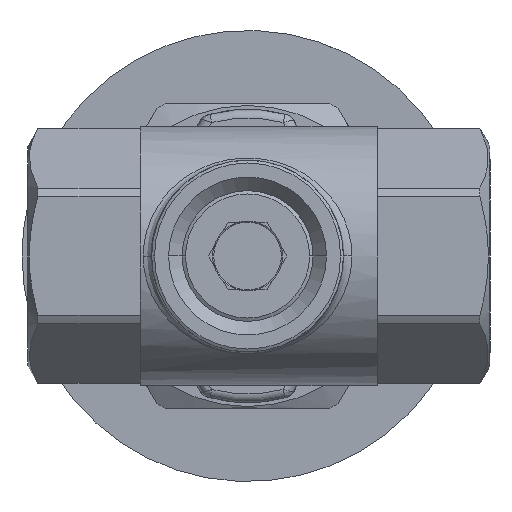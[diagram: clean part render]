
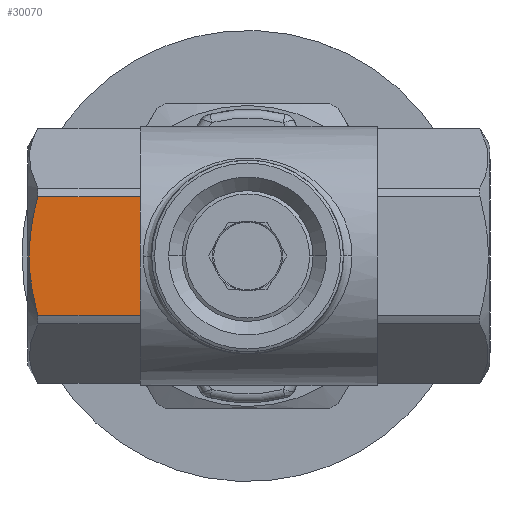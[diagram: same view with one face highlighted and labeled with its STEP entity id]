
A CAD part, front view. The second image highlights one B-rep face of the part: STEP entity #30070.
In plain terms, the highlighted planar face has unit normal (0, -1, 0).
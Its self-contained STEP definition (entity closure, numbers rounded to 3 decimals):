
#3420=CARTESIAN_POINT('',(-9.5,-10.,-5.262));
#3430=VERTEX_POINT('',#3420);
#3460=CARTESIAN_POINT('',(-9.5,-10.,0.));
#3470=DIRECTION('',(0.,0.,1.));
#3480=VECTOR('',#3470,1.);
#3490=LINE('',#3460,#3480);
#3500=CARTESIAN_POINT('',(-9.5,-10.,5.262));
#3510=VERTEX_POINT('',#3500);
#3520=EDGE_CURVE('',#3430,#3510,#3490,.T.);
#22700=CARTESIAN_POINT('',(-18.,0.,0.));
#22710=DIRECTION('',(1.,0.,0.));
#22720=DIRECTION('',(0.,-1.,0.));
#22730=AXIS2_PLACEMENT_3D('',#22700,#22710,#22720);
#22740=CONICAL_SURFACE('',#22730,12.348,1.047);
#25070=CARTESIAN_POINT('',(-19.356,-10.,0.));
#25080=VERTEX_POINT('',#25070);
#25110=CARTESIAN_POINT('',(-9.5,-10.,-5.774));
#25120=DIRECTION('',(0.,1.,0.));
#25130=DIRECTION('',(0.,0.,-1.));
#25140=AXIS2_PLACEMENT_3D('',#25110,#25120,#25130);
#25150=PLANE('',#25140);
#25160=CARTESIAN_POINT('',(-18.605,-10.,
-5.262));
#25170=CARTESIAN_POINT('',(-18.663,-10.,
-5.048));
#25180=CARTESIAN_POINT('',(-18.718,-10.,
-4.833));
#25190=CARTESIAN_POINT('',(-18.77,-10.,
-4.618));
#25200=CARTESIAN_POINT('',(-18.822,-10.,
-4.402));
#25210=CARTESIAN_POINT('',(-18.871,-10.,
-4.186));
#25220=CARTESIAN_POINT('',(-18.917,-10.,
-3.969));
#25230=CARTESIAN_POINT('',(-18.964,-10.,
-3.753));
#25240=CARTESIAN_POINT('',(-19.007,-10.,
-3.535));
#25250=CARTESIAN_POINT('',(-19.046,-10.,
-3.317));
#25260=CARTESIAN_POINT('',(-19.086,-10.,
-3.098));
#25270=CARTESIAN_POINT('',(-19.122,-10.,
-2.879));
#25280=CARTESIAN_POINT('',(-19.155,-10.,
-2.659));
#25290=CARTESIAN_POINT('',(-19.171,-10.,
-2.549));
#25300=CARTESIAN_POINT('',(-19.187,-10.,
-2.439));
#25310=CARTESIAN_POINT('',(-19.201,-10.,
-2.328));
#25320=CARTESIAN_POINT('',(-19.216,-10.,
-2.218));
#25330=CARTESIAN_POINT('',(-19.229,-10.,
-2.108));
#25340=CARTESIAN_POINT('',(-19.242,-10.,
-1.997));
#25350=CARTESIAN_POINT('',(-19.254,-10.,
-1.886));
#25360=CARTESIAN_POINT('',(-19.266,-10.,
-1.776));
#25370=CARTESIAN_POINT('',(-19.276,-10.,
-1.665));
#25380=CARTESIAN_POINT('',(-19.287,-10.,
-1.554));
#25390=CARTESIAN_POINT('',(-19.296,-10.,
-1.443));
#25400=CARTESIAN_POINT('',(-19.305,-10.,
-1.332));
#25410=CARTESIAN_POINT('',(-19.313,-10.,
-1.221));
#25420=CARTESIAN_POINT('',(-19.321,-10.,
-1.111));
#25430=CARTESIAN_POINT('',(-19.327,-10.,
-0.999));
#25440=CARTESIAN_POINT('',(-19.333,-10.,
-0.888));
#25450=CARTESIAN_POINT('',(-19.339,-10.,
-0.777));
#25460=CARTESIAN_POINT('',(-19.343,-10.,
-0.666));
#25470=CARTESIAN_POINT('',(-19.347,-10.,
-0.555));
#25480=CARTESIAN_POINT('',(-19.35,-10.,
-0.444));
#25490=CARTESIAN_POINT('',(-19.352,-10.,
-0.333));
#25500=CARTESIAN_POINT('',(-19.355,-10.,
-0.222));
#25510=CARTESIAN_POINT('',(-19.356,-10.,
-0.111));
#25520=CARTESIAN_POINT('',(-19.356,-10.,
0.));
#25530=B_SPLINE_CURVE_WITH_KNOTS('',3,(#25160,#25170,#25180,#25190,
#25200,#25210,#25220,#25230,#25240,#25250,#25260,#25270,#25280,#25290,
#25300,#25310,#25320,#25330,#25340,#25350,#25360,#25370,#25380,#25390,
#25400,#25410,#25420,#25430,#25440,#25450,#25460,#25470,#25480,#25490,
#25500,#25510,#25520),.UNSPECIFIED.,.F.,.F.,(4,3,3,3,3,3,3,3,3,3,3,3,4),
(0.,0.665,1.33,1.996,2.662,
2.996,3.33,3.664,3.997,
4.331,4.665,4.998,5.331),
.UNSPECIFIED.);
#25540=SURFACE_CURVE('',#25530,(#25150,#22740),.CURVE_3D.);
#25550=CARTESIAN_POINT('',(-18.605,-10.,
-5.262));
#25560=VERTEX_POINT('',#25550);
#25570=EDGE_CURVE('',#25560,#25080,#25540,.T.);
#29510=CARTESIAN_POINT('',(-16.,-10.,5.262));
#29520=DIRECTION('',(-1.,0.,0.));
#29530=VECTOR('',#29520,1.);
#29540=LINE('',#29510,#29530);
#29550=CARTESIAN_POINT('',(-18.605,-10.,
5.262));
#29560=VERTEX_POINT('',#29550);
#29570=EDGE_CURVE('',#3510,#29560,#29540,.T.);
#29580=ORIENTED_EDGE('',*,*,#29570,.T.);
#29590=ORIENTED_EDGE('',*,*,#3520,.T.);
#29600=CARTESIAN_POINT('',(-16.,-10.,-5.262));
#29610=DIRECTION('',(-1.,0.,0.));
#29620=VECTOR('',#29610,1.);
#29630=LINE('',#29600,#29620);
#29640=EDGE_CURVE('',#3430,#25560,#29630,.T.);
#29650=ORIENTED_EDGE('',*,*,#29640,.F.);
#29660=ORIENTED_EDGE('',*,*,#25570,.F.);
#29670=CARTESIAN_POINT('',(-19.356,-10.,
0.));
#29680=CARTESIAN_POINT('',(-19.356,-10.,
0.111));
#29690=CARTESIAN_POINT('',(-19.355,-10.,
0.222));
#29700=CARTESIAN_POINT('',(-19.352,-10.,
0.333));
#29710=CARTESIAN_POINT('',(-19.35,-10.,
0.444));
#29720=CARTESIAN_POINT('',(-19.347,-10.,
0.555));
#29730=CARTESIAN_POINT('',(-19.343,-10.,
0.666));
#29740=CARTESIAN_POINT('',(-19.334,-10.,
0.887));
#29750=CARTESIAN_POINT('',(-19.322,-10.,
1.109));
#29760=CARTESIAN_POINT('',(-19.305,-10.,
1.33));
#29770=CARTESIAN_POINT('',(-19.296,-10.,
1.441));
#29780=CARTESIAN_POINT('',(-19.287,-10.,
1.551));
#29790=CARTESIAN_POINT('',(-19.276,-10.,
1.662));
#29800=CARTESIAN_POINT('',(-19.266,-10.,
1.772));
#29810=CARTESIAN_POINT('',(-19.255,-10.,
1.883));
#29820=CARTESIAN_POINT('',(-19.242,-10.,
1.993));
#29830=CARTESIAN_POINT('',(-19.23,-10.,
2.103));
#29840=CARTESIAN_POINT('',(-19.216,-10.,
2.214));
#29850=CARTESIAN_POINT('',(-19.202,-10.,
2.324));
#29860=CARTESIAN_POINT('',(-19.187,-10.,
2.434));
#29870=CARTESIAN_POINT('',(-19.172,-10.,
2.544));
#29880=CARTESIAN_POINT('',(-19.156,-10.,
2.654));
#29890=CARTESIAN_POINT('',(-19.123,-10.,
2.874));
#29900=CARTESIAN_POINT('',(-19.087,-10.,
3.093));
#29910=CARTESIAN_POINT('',(-19.047,-10.,
3.312));
#29920=CARTESIAN_POINT('',(-19.007,-10.,
3.531));
#29930=CARTESIAN_POINT('',(-18.964,-10.,
3.749));
#29940=CARTESIAN_POINT('',(-18.918,-10.,
3.967));
#29950=CARTESIAN_POINT('',(-18.872,-10.,
4.184));
#29960=CARTESIAN_POINT('',(-18.822,-10.,
4.401));
#29970=CARTESIAN_POINT('',(-18.77,-10.,
4.617));
#29980=CARTESIAN_POINT('',(-18.718,-10.,
4.833));
#29990=CARTESIAN_POINT('',(-18.663,-10.,
5.048));
#30000=CARTESIAN_POINT('',(-18.605,-10.,
5.262));
#30010=B_SPLINE_CURVE_WITH_KNOTS('',3,(#29670,#29680,#29690,#29700,
#29710,#29720,#29730,#29740,#29750,#29760,#29770,#29780,#29790,#29800,
#29810,#29820,#29830,#29840,#29850,#29860,#29870,#29880,#29890,#29900,
#29910,#29920,#29930,#29940,#29950,#29960,#29970,#29980,#29990,#30000),
.UNSPECIFIED.,.F.,.F.,(4,3,3,3,3,3,3,3,3,3,3,4),(0.,0.333,
0.666,1.331,1.664,1.997,
2.331,2.664,3.331,3.998,
4.665,5.331),.UNSPECIFIED.);
#30020=SURFACE_CURVE('',#30010,(#25150,#22740),.CURVE_3D.);
#30030=EDGE_CURVE('',#25080,#29560,#30020,.T.);
#30040=ORIENTED_EDGE('',*,*,#30030,.F.);
#30050=EDGE_LOOP('',(#30040,#29660,#29650,#29590,#29580));
#30060=FACE_OUTER_BOUND('',#30050,.T.);
#30070=ADVANCED_FACE('',(#30060),#25150,.F.);
